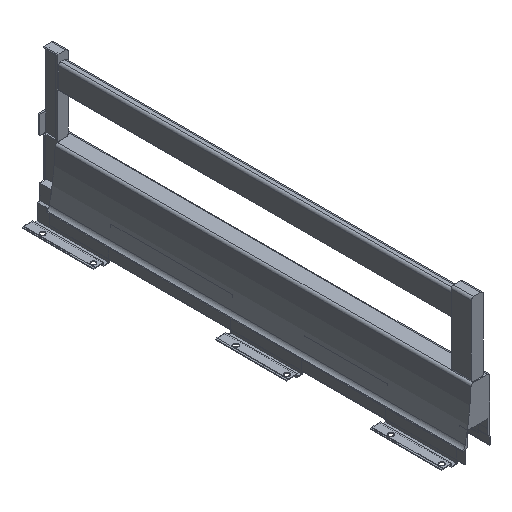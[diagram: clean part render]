
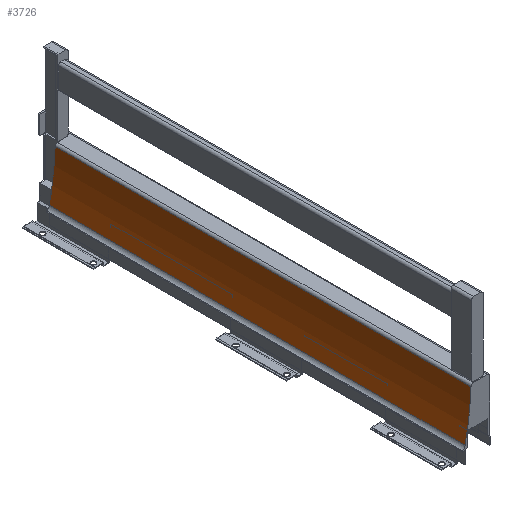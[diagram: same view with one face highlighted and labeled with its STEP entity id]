
A CAD part, isometric view. The second image highlights one B-rep face of the part: STEP entity #3726.
In plain terms, the highlighted cylindrical face has radius 350 mm (diameter 700 mm), a partial arc.
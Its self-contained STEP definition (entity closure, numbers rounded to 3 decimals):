
#338 = CARTESIAN_POINT ( 'NONE',  ( -27.279, 540., -13.745 ) ) ;
#339 = DIRECTION ( 'NONE',  ( 0., -1., 0. ) ) ;
#462 = CARTESIAN_POINT ( 'NONE',  ( -19.88, 0., 46.603 ) ) ;
#472 = CARTESIAN_POINT ( 'NONE',  ( -27.279, 0., -13.745 ) ) ;
#537 = CARTESIAN_POINT ( 'NONE',  ( -27.279, 523.8, -13.745 ) ) ;
#562 = CARTESIAN_POINT ( 'NONE',  ( -19.88, 523.8, 46.603 ) ) ;
#1209 = DIRECTION ( 'NONE',  ( 1., 0., 0. ) ) ;
#1210 = DIRECTION ( 'NONE',  ( 0., -1., 0. ) ) ;
#1211 = CARTESIAN_POINT ( 'NONE',  ( -369.665, 540., 58.86 ) ) ;
#1537 = EDGE_CURVE ( 'NONE', #2289, #2314, #4496, .T. ) ;
#1784 = AXIS2_PLACEMENT_3D ( 'NONE', #1211, #1210, #1209 ) ;
#1807 = EDGE_CURVE ( 'NONE', #2223, #2225, #4209, .T. ) ;
#1811 = EDGE_CURVE ( 'NONE', #2314, #2225, #4210, .T. ) ;
#2014 = AXIS2_PLACEMENT_3D ( 'NONE', #2613, #2614, #2615 ) ;
#2046 = AXIS2_PLACEMENT_3D ( 'NONE', #3295, #3229, #3228 ) ;
#2094 = EDGE_CURVE ( 'NONE', #2289, #2223, #3501, .T. ) ;
#2223 = VERTEX_POINT ( 'NONE', #472 ) ;
#2225 = VERTEX_POINT ( 'NONE', #462 ) ;
#2289 = VERTEX_POINT ( 'NONE', #537 ) ;
#2314 = VERTEX_POINT ( 'NONE', #562 ) ;
#2613 = CARTESIAN_POINT ( 'NONE',  ( -369.665, 523.8, 58.86 ) ) ;
#2614 = DIRECTION ( 'NONE',  ( 0., -1., 0. ) ) ;
#2615 = DIRECTION ( 'NONE',  ( -1., 0., 0. ) ) ;
#3193 = DIRECTION ( 'NONE',  ( 0., -1., 0. ) ) ;
#3214 = CARTESIAN_POINT ( 'NONE',  ( -19.88, 540., 46.603 ) ) ;
#3228 = DIRECTION ( 'NONE',  ( -1., 0., 0. ) ) ;
#3229 = DIRECTION ( 'NONE',  ( 0., -1., 0. ) ) ;
#3295 = CARTESIAN_POINT ( 'NONE',  ( -369.665, 0., 58.86 ) ) ;
#3479 = VECTOR ( 'NONE', #339, 1000. ) ;
#3501 = LINE ( 'NONE', #338, #3479 ) ;
#3726 = ADVANCED_FACE ( 'NONE', ( #3946 ), #3948, .F. ) ;
#3946 = FACE_OUTER_BOUND ( 'NONE', #5002, .T. ) ;
#3948 = CYLINDRICAL_SURFACE ( 'NONE', #1784, 350. ) ;
#4209 = CIRCLE ( 'NONE', #2046, 350. ) ;
#4210 = LINE ( 'NONE', #3214, #4211 ) ;
#4211 = VECTOR ( 'NONE', #3193, 1000. ) ;
#4496 = CIRCLE ( 'NONE', #2014, 350. ) ;
#5002 = EDGE_LOOP ( 'NONE', ( #5341, #5342, #5178, #5340 ) ) ;
#5178 = ORIENTED_EDGE ( 'NONE', *, *, #1807, .T. ) ;
#5340 = ORIENTED_EDGE ( 'NONE', *, *, #1811, .F. ) ;
#5341 = ORIENTED_EDGE ( 'NONE', *, *, #1537, .F. ) ;
#5342 = ORIENTED_EDGE ( 'NONE', *, *, #2094, .T. ) ;
